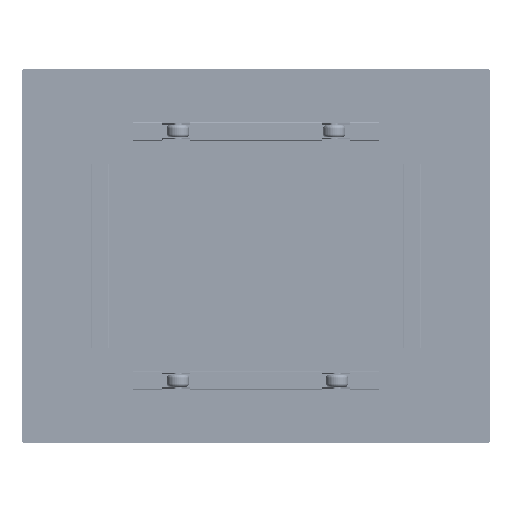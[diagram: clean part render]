
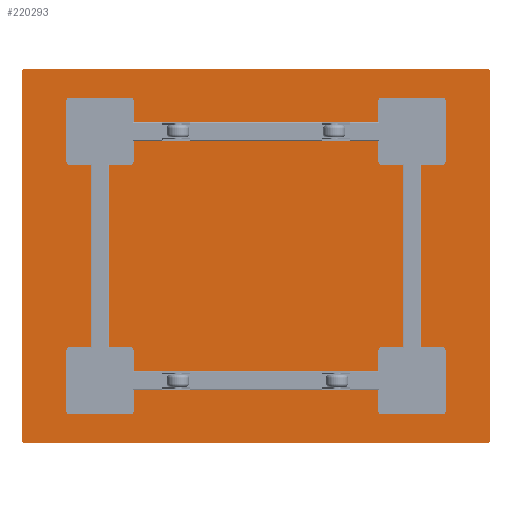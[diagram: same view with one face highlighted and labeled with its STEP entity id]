
A CAD part, front view. The second image highlights one B-rep face of the part: STEP entity #220293.
In plain terms, the highlighted planar face has unit normal (0, -1, 0).
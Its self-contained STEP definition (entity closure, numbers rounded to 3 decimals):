
#1288 = VECTOR ( 'NONE', #186508, 1000. ) ;
#1766 = DIRECTION ( 'NONE',  ( 0., -1., 0. ) ) ;
#3388 = DIRECTION ( 'NONE',  ( 1., 0., 0. ) ) ;
#14350 = VERTEX_POINT ( 'NONE', #263876 ) ;
#20761 = CARTESIAN_POINT ( 'NONE',  ( -519.014, 388.021, -200. ) ) ;
#21828 = VERTEX_POINT ( 'NONE', #175539 ) ;
#24005 = CARTESIAN_POINT ( 'NONE',  ( 980.986, 388.021, -200. ) ) ;
#26279 = EDGE_CURVE ( 'NONE', #14350, #40105, #228050, .T. ) ;
#33172 = ORIENTED_EDGE ( 'NONE', *, *, #106272, .T. ) ;
#40105 = VERTEX_POINT ( 'NONE', #220622 ) ;
#40730 = CARTESIAN_POINT ( 'NONE',  ( -519.014, 388.021, 980. ) ) ;
#47582 = CARTESIAN_POINT ( 'NONE',  ( -509.014, 388.021, 980. ) ) ;
#50190 = DIRECTION ( 'NONE',  ( 0., -1., 0. ) ) ;
#57702 = EDGE_CURVE ( 'NONE', #216048, #191209, #240691, .T. ) ;
#65913 = ORIENTED_EDGE ( 'NONE', *, *, #99610, .T. ) ;
#68207 = VECTOR ( 'NONE', #124914, 1000. ) ;
#71923 = CIRCLE ( 'NONE', #154488, 10. ) ;
#75391 = VECTOR ( 'NONE', #3388, 1000. ) ;
#78579 = CARTESIAN_POINT ( 'NONE',  ( 970.986, 388.021, -210. ) ) ;
#80112 = ORIENTED_EDGE ( 'NONE', *, *, #26279, .T. ) ;
#80749 = CARTESIAN_POINT ( 'NONE',  ( -519.014, 388.021, 990. ) ) ;
#83929 = DIRECTION ( 'NONE',  ( 0., -1., 0. ) ) ;
#87953 = PLANE ( 'NONE',  #257639 ) ;
#91791 = DIRECTION ( 'NONE',  ( 0., -1., 0. ) ) ;
#92007 = VERTEX_POINT ( 'NONE', #241960 ) ;
#93642 = LINE ( 'NONE', #167812, #1288 ) ;
#93856 = ORIENTED_EDGE ( 'NONE', *, *, #292047, .T. ) ;
#99610 = EDGE_CURVE ( 'NONE', #92007, #216048, #71923, .T. ) ;
#106272 = EDGE_CURVE ( 'NONE', #40105, #92007, #93642, .T. ) ;
#108261 = CARTESIAN_POINT ( 'NONE',  ( 970.986, 388.021, -200. ) ) ;
#116101 = AXIS2_PLACEMENT_3D ( 'NONE', #256071, #1766, #231720 ) ;
#121575 = DIRECTION ( 'NONE',  ( 0., 0., 1. ) ) ;
#124914 = DIRECTION ( 'NONE',  ( 0., 0., -1. ) ) ;
#130577 = EDGE_CURVE ( 'NONE', #21828, #196804, #166304, .T. ) ;
#139321 = VERTEX_POINT ( 'NONE', #24005 ) ;
#141925 = CARTESIAN_POINT ( 'NONE',  ( -519.014, 388.021, -210. ) ) ;
#144376 = CARTESIAN_POINT ( 'NONE',  ( 980.986, 388.021, 990. ) ) ;
#146400 = EDGE_CURVE ( 'NONE', #196804, #139321, #187272, .T. ) ;
#146486 = EDGE_CURVE ( 'NONE', #191209, #21828, #265119, .T. ) ;
#154488 = AXIS2_PLACEMENT_3D ( 'NONE', #47582, #91791, #228885 ) ;
#162813 = ORIENTED_EDGE ( 'NONE', *, *, #130577, .T. ) ;
#164451 = DIRECTION ( 'NONE',  ( 1., 0., 0. ) ) ;
#165994 = ORIENTED_EDGE ( 'NONE', *, *, #57702, .T. ) ;
#166304 = LINE ( 'NONE', #141925, #75391 ) ;
#167812 = CARTESIAN_POINT ( 'NONE',  ( -519.014, 388.021, 990. ) ) ;
#167906 = AXIS2_PLACEMENT_3D ( 'NONE', #179826, #50190, #164451 ) ;
#175539 = CARTESIAN_POINT ( 'NONE',  ( -509.014, 388.021, -210. ) ) ;
#179826 = CARTESIAN_POINT ( 'NONE',  ( -509.014, 388.021, -200. ) ) ;
#180826 = CARTESIAN_POINT ( 'NONE',  ( 311.219, 388.021, 276.174 ) ) ;
#186197 = ORIENTED_EDGE ( 'NONE', *, *, #146400, .T. ) ;
#186508 = DIRECTION ( 'NONE',  ( -1., 0., 0. ) ) ;
#187272 = CIRCLE ( 'NONE', #255299, 10. ) ;
#191209 = VERTEX_POINT ( 'NONE', #20761 ) ;
#196804 = VERTEX_POINT ( 'NONE', #78579 ) ;
#209287 = VECTOR ( 'NONE', #121575, 1000. ) ;
#216048 = VERTEX_POINT ( 'NONE', #40730 ) ;
#220293 = ADVANCED_FACE ( 'NONE', ( #269211 ), #87953, .T. ) ;
#220622 = CARTESIAN_POINT ( 'NONE',  ( 970.986, 388.021, 990. ) ) ;
#224001 = DIRECTION ( 'NONE',  ( 1., 0., 0. ) ) ;
#225002 = DIRECTION ( 'NONE',  ( 0., -1., 0. ) ) ;
#228050 = CIRCLE ( 'NONE', #116101, 10. ) ;
#228885 = DIRECTION ( 'NONE',  ( 1., 0., 0. ) ) ;
#231720 = DIRECTION ( 'NONE',  ( 1., 0., 0. ) ) ;
#240691 = LINE ( 'NONE', #80749, #68207 ) ;
#241960 = CARTESIAN_POINT ( 'NONE',  ( -509.014, 388.021, 990. ) ) ;
#244866 = DIRECTION ( 'NONE',  ( 1., 0., 0. ) ) ;
#249688 = ORIENTED_EDGE ( 'NONE', *, *, #146486, .T. ) ;
#255299 = AXIS2_PLACEMENT_3D ( 'NONE', #108261, #83929, #224001 ) ;
#256071 = CARTESIAN_POINT ( 'NONE',  ( 970.986, 388.021, 980. ) ) ;
#257639 = AXIS2_PLACEMENT_3D ( 'NONE', #180826, #225002, #244866 ) ;
#261659 = LINE ( 'NONE', #144376, #209287 ) ;
#263876 = CARTESIAN_POINT ( 'NONE',  ( 980.986, 388.021, 980. ) ) ;
#265119 = CIRCLE ( 'NONE', #167906, 10. ) ;
#269211 = FACE_OUTER_BOUND ( 'NONE', #273818, .T. ) ;
#273818 = EDGE_LOOP ( 'NONE', ( #33172, #65913, #165994, #249688, #162813, #186197, #93856, #80112 ) ) ;
#292047 = EDGE_CURVE ( 'NONE', #139321, #14350, #261659, .T. ) ;
